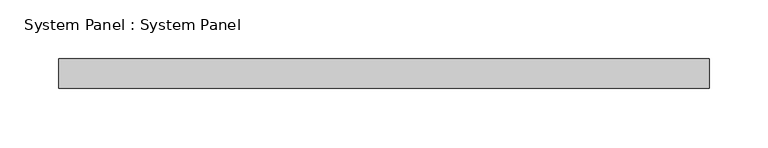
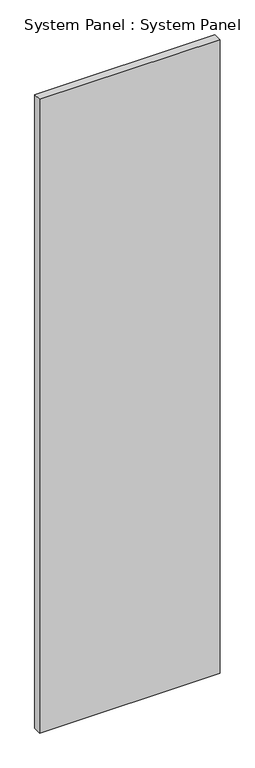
"""IFC4 building model written with IfcOpenShell, lengths in millimetres: plate geometry, System Panel : System Panel."""

from ifc_helpers import new_model, si_unit, origin, origin_with_axes, place, context, project, spatial, polyline, outline, extrude, source, transform, mapped, element, save


def system_panel_system_panel_996e8192(model_context):
    return source(origin(), model_context, "Body", "SweptSolid", [
        extrude(outline(polyline([(276.306549, 24.5), (-276.306549, 24.5), (-276.306549, 49.5), (276.306549, 49.5), (276.306549, 24.5)])), origin_with_axes(), (0.0, 0.0, 1.0), 2050.1890334),
    ])


if __name__ == "__main__":
    model = new_model("IFC4")
    model_context = context("Model", 3, world=origin())
    ifc_project = project(units=[si_unit("LENGTHUNIT", "METRE", prefix="MILLI")], contexts=[model_context])
    site = spatial("IfcSite", under=ifc_project)
    building = spatial("IfcBuilding", under=site)
    placement = place(None, origin())
    system_panel_system_panel_shape = system_panel_system_panel_996e8192(model_context)
    element("IfcPlate", 1, ObjectType="System Panel : System Panel", at=placement, inside=building, context=model_context, shape_type="MappedRepresentation", body=[
        mapped(system_panel_system_panel_shape, transform((0.0, 0.0, 0.0), x_axis=(1.0, 0.0, 0.0), y_axis=(0.0, 1.0, 0.0), z_axis=(0.0, 0.0, 1.0))),
    ])
    save(model, "model.ifc")
